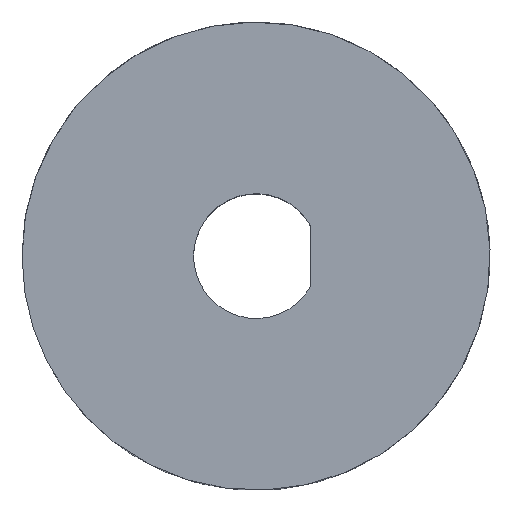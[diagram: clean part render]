
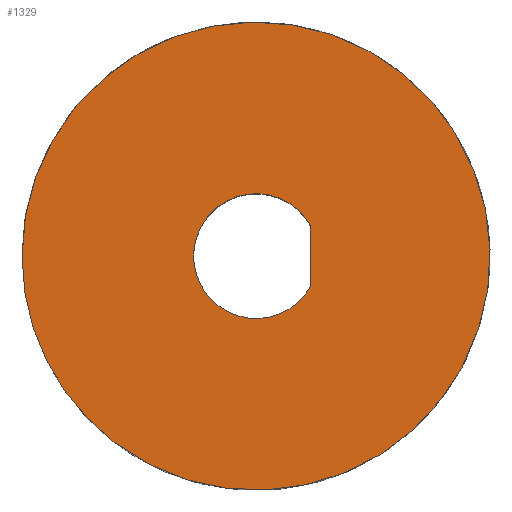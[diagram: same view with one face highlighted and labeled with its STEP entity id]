
A CAD part, top view. The second image highlights one B-rep face of the part: STEP entity #1329.
In plain terms, the highlighted planar face has unit normal (0, 0, 1).
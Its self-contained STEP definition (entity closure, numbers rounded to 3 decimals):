
#48=LINE('',#2251,#91);
#91=VECTOR('',#1699,10.);
#171=FACE_BOUND('',#341,.T.);
#263=FACE_OUTER_BOUND('',#340,.T.);
#340=EDGE_LOOP('',(#986,#987));
#341=EDGE_LOOP('',(#988,#989));
#461=CIRCLE('',#1467,4.);
#463=CIRCLE('',#1470,15.);
#464=CIRCLE('',#1471,15.);
#582=VERTEX_POINT('',#2229);
#584=VERTEX_POINT('',#2232);
#586=VERTEX_POINT('',#2243);
#587=VERTEX_POINT('',#2245);
#730=EDGE_CURVE('',#584,#582,#461,.T.);
#739=EDGE_CURVE('',#587,#586,#463,.T.);
#740=EDGE_CURVE('',#586,#587,#464,.T.);
#742=EDGE_CURVE('',#582,#584,#48,.T.);
#986=ORIENTED_EDGE('',*,*,#739,.T.);
#987=ORIENTED_EDGE('',*,*,#740,.T.);
#988=ORIENTED_EDGE('',*,*,#742,.T.);
#989=ORIENTED_EDGE('',*,*,#730,.T.);
#1317=PLANE('',#1476);
#1329=ADVANCED_FACE('',(#263,#171),#1317,.F.);
#1467=AXIS2_PLACEMENT_3D('',#2233,#1677,#1678);
#1470=AXIS2_PLACEMENT_3D('',#2246,#1690,#1691);
#1471=AXIS2_PLACEMENT_3D('',#2247,#1692,#1693);
#1476=AXIS2_PLACEMENT_3D('',#2255,#1705,#1706);
#1677=DIRECTION('center_axis',(0.,0.,-1.));
#1678=DIRECTION('ref_axis',(1.,0.,0.));
#1690=DIRECTION('center_axis',(0.,0.,1.));
#1691=DIRECTION('ref_axis',(1.,0.,0.));
#1692=DIRECTION('center_axis',(0.,0.,1.));
#1693=DIRECTION('ref_axis',(1.,0.,0.));
#1699=DIRECTION('',(0.,-1.,0.));
#1705=DIRECTION('center_axis',(0.,0.,-1.));
#1706=DIRECTION('ref_axis',(-1.,0.,0.));
#2229=CARTESIAN_POINT('',(3.5,8.303,8.1));
#2232=CARTESIAN_POINT('',(3.5,4.43,8.1));
#2233=CARTESIAN_POINT('Origin',(0.,6.366,8.1));
#2243=CARTESIAN_POINT('',(-15.,6.366,8.1));
#2245=CARTESIAN_POINT('',(-9.036,-5.606,8.1));
#2246=CARTESIAN_POINT('Origin',(0.,6.366,8.1));
#2247=CARTESIAN_POINT('Origin',(0.,6.366,8.1));
#2251=CARTESIAN_POINT('',(3.5,7.334,8.1));
#2255=CARTESIAN_POINT('Origin',(-0.057,6.366,8.1));
